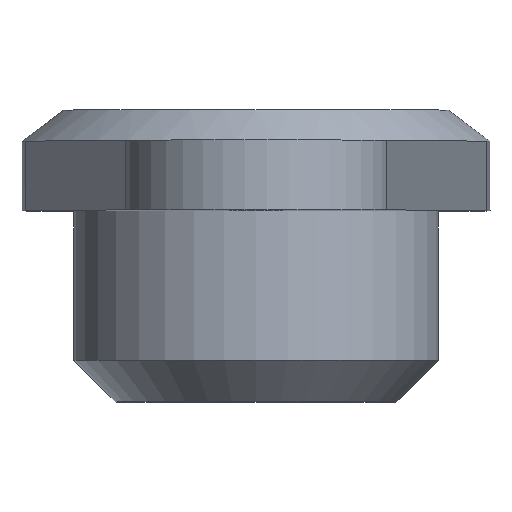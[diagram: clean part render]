
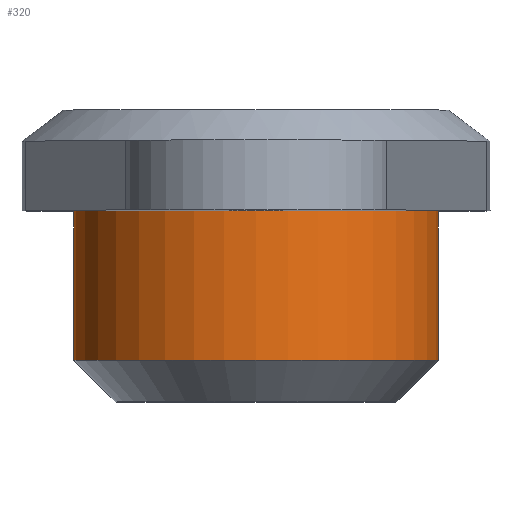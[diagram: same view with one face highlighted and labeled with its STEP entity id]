
A CAD part, top view. The second image highlights one B-rep face of the part: STEP entity #320.
In plain terms, the highlighted cylindrical face has radius 5.5 mm (diameter 11 mm), a full revolution.
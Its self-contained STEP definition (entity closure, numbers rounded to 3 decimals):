
#39=CYLINDRICAL_SURFACE('',#377,5.5);
#53=FACE_OUTER_BOUND('',#77,.T.);
#77=EDGE_LOOP('',(#266,#267,#268,#269));
#107=LINE('',#566,#125);
#125=VECTOR('',#464,5.5);
#144=CIRCLE('',#378,5.5);
#145=CIRCLE('',#379,5.5);
#173=VERTEX_POINT('',#563);
#174=VERTEX_POINT('',#565);
#208=EDGE_CURVE('',#173,#173,#144,.T.);
#209=EDGE_CURVE('',#173,#174,#107,.T.);
#210=EDGE_CURVE('',#174,#174,#145,.T.);
#266=ORIENTED_EDGE('',*,*,#208,.F.);
#267=ORIENTED_EDGE('',*,*,#209,.T.);
#268=ORIENTED_EDGE('',*,*,#210,.T.);
#269=ORIENTED_EDGE('',*,*,#209,.F.);
#320=ADVANCED_FACE('',(#53),#39,.T.);
#377=AXIS2_PLACEMENT_3D('',#562,#460,#461);
#378=AXIS2_PLACEMENT_3D('',#564,#462,#463);
#379=AXIS2_PLACEMENT_3D('',#567,#465,#466);
#460=DIRECTION('center_axis',(0.,-1.,0.));
#461=DIRECTION('ref_axis',(1.,0.,0.));
#462=DIRECTION('center_axis',(0.,-1.,0.));
#463=DIRECTION('ref_axis',(1.,0.,0.));
#464=DIRECTION('',(0.,1.,0.));
#465=DIRECTION('center_axis',(0.,-1.,0.));
#466=DIRECTION('ref_axis',(1.,0.,0.));
#562=CARTESIAN_POINT('Origin',(0.,-2.255,0.));
#563=CARTESIAN_POINT('',(-5.5,-4.51,0.));
#564=CARTESIAN_POINT('Origin',(0.,-4.51,0.));
#565=CARTESIAN_POINT('',(-5.5,0.,0.));
#566=CARTESIAN_POINT('',(-5.5,-2.255,0.));
#567=CARTESIAN_POINT('Origin',(0.,0.,0.));
